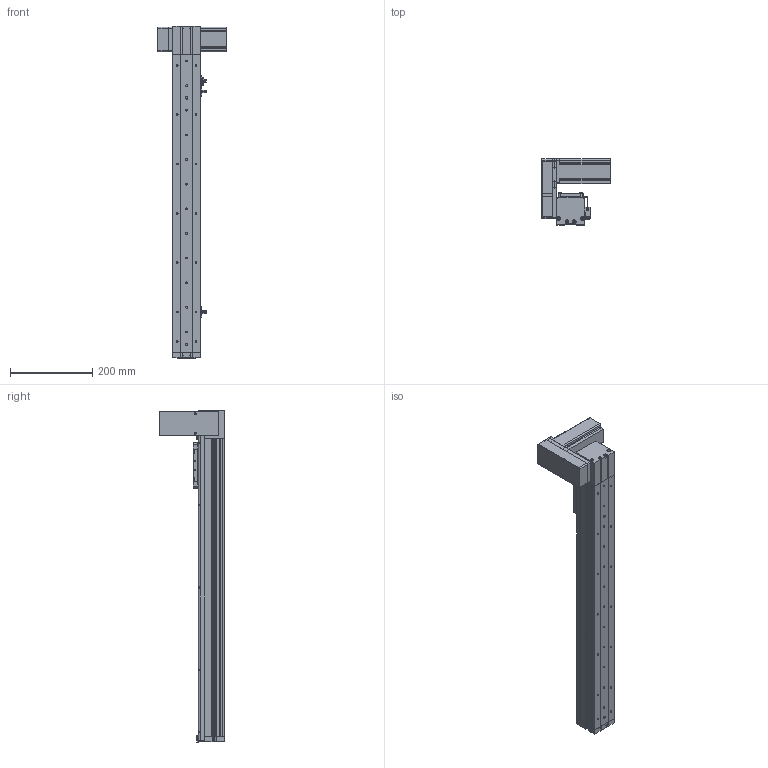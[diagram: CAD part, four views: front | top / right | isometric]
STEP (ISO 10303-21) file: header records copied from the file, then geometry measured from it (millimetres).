
FILE_DESCRIPTION (( 'STEP AP214' ), '1' );
FILE_NAME ('KSD68BS-S550-MRU-CR.STEP', '2019-11-08T05:52:40', ( '微软用户' ), ( '微软中国' ), 'SwSTEP 2.0', 'SolidWorks 2014', '' );
FILE_SCHEMA (( 'AUTOMOTIVE_DESIGN' ));
Length unit declared in the file: millimetre
Products named in the file (14): 68宽马达安装板连板上折同步带; 感应片68宽全封闭; U倰嫖萇EEㄜSX672; KSD68BS 550行程盖板全封闭; 台达ECMA－C20604AS伺服电机（400W); KSD68BS 550行程底板全封闭; KSD68BS-S550-MRU-CR; 68宽单导轨全封闭丝杆传动安装板1防护罩; KSD68BS 550行程侧板全封闭; 68遵裔啣揤啣1; 68宽单导轨全封闭同步带端板; 68单导轨全封闭同步带电机座右; 68单导轨全封闭同步带安装板; 悵誘欶奻狟殏
Assembly tree (17 placements, depth 2):
  KSD68BS-S550-MRU-CR
    KSD68BS 550行程底板全封闭
    台达ECMA－C20604AS伺服电机（400W)
    U倰嫖萇EEㄜSX672  x3
    感应片68宽全封闭
    68宽马达安装板连板上折同步带
    悵誘欶奻狟殏
    68单导轨全封闭同步带安装板
    68单导轨全封闭同步带电机座右
    68宽单导轨全封闭同步带端板
    KSD68BS 550行程侧板全封闭  x2
    68宽单导轨全封闭丝杆传动安装板1防护罩
    68遵裔啣揤啣1  x2
    KSD68BS 550行程盖板全封闭
Bounding box: 167.2 x 159.5 x 808.1 mm (x, y, z)
Volume: 1930713.2 mm3; surface area: 686279.8 mm2
Topology: 18 solids, 18 shells, 1440 faces, 4069 edges, 2609 vertices
Faces by surface type: cylinder 665, plane 627, cone 148
Entity records: 44934 total; most frequent: CARTESIAN_POINT 7593, DIRECTION 6775, ORIENTED_EDGE 6482, EDGE_CURVE 3241, AXIS2_PLACEMENT_3D 2425, VERTEX_POINT 2127, LINE 1925, VECTOR 1925
